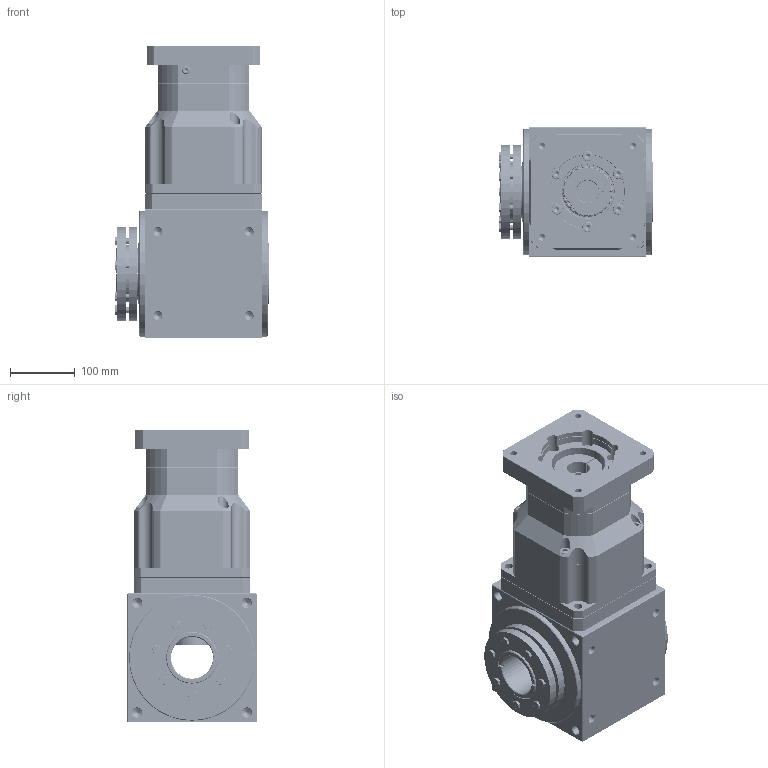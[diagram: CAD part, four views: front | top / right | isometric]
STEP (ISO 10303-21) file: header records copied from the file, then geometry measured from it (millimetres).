
FILE_DESCRIPTION (( 'STEP AP214' ), '1' );
FILE_NAME ('AAW200AS-L2-RFHP 35-114.3-200-M12.STEP', '2021-04-24T05:33:00', ( 'Microsoft' ), ( 'Microsoft China' ), 'SwSTEP 2.0', 'SolidWorks 2016', '' );
FILE_SCHEMA (( 'AUTOMOTIVE_DESIGN' ));
Length unit declared in the file: millimetre
Products named in the file (39): 俴陎謫菜え13.6X27; 齿圈Z108; 俴陎粣13.513; 媼撰笢潔楊擘; AAW200AS-100-RFHP-35-114.3-200-M12_1; AAW200AS-L2-RFHP 35-114.3-200-M12; 萇儂楊擘D114.3M12; Hex socket set screws with flat point GB_GB_FASTENER_SCREWS_HSFP M12X16-N; 俴陎殤5B-30; 薊粣ん菜え35; Deep groove ball bearings GB_Rolling bearings 61821 GB 276-94; Hexagon socket head cap screws GB_GB_FASTENER_SCREWS_HSHCS M10X30-N; 二级齿圈Z108; Hexagon socket countersunk head screws GB_GB_FASTENER_SCREWS_HSCHS M6X16-N; Spring lock washers--Normal type GB_GB_FASTENER_WASHER_SW 10; Spring lock washers--Normal type GB_GB_FASTENER_WASHER_SW 8; Plain parallel keys_GB_CONNECTING_PIECE_KEYS_CSK C8X22; Hexagon socket head cap screws GB_GB_FASTENER_SCREWS_HSHCS M8X35-N; Circlips for hole--Type B GB_GB_CONNECTING_PIECE_RINGS_CHB 110; Hexagon socket head cap screws GB_GB_FASTENER_SCREWS_HSHCS M10X35-N; Circlips for holes--Type A GB_GB_CONNECTING_PIECE_RING_RRH 130; Plain parallel keys_GB_CONNECTING_PIECE_KEYS_CSK C4X18; 怮栠謫5B; Circlips for shaft--Type A large GB_GB_CONNECTING_PIECE_RING_RRA 55; 俴陎謫5B; 怮栠謫8; 俴陎謫菜え15.4X28; 薊粣ん35K12; 幗渀粣創15.259X21.259; Deep groove ball bearings GB_Rolling bearings 6011 GB 276-94; 俴陎粣15.259; 粣創揤啣105; 蚐猾75X130X12; Circlips for hole--Type B GB_GB_CONNECTING_PIECE_RINGS_CHB 80; Deep groove ball bearings GB_Rolling bearings 61826 GB 276-94; 俴陎謫8; 怀堤粣5B; 幗渀粣創13.513X18.513; Deep groove ball bearings GB_Rolling bearings 6215 GB 276-94
Assembly tree (91 placements, depth 2):
  AAW200AS-L2-RFHP 35-114.3-200-M12
    齿圈Z108
    Deep groove ball bearings GB_Rolling bearings 6215 GB 276-94
    怀堤粣5B
    Deep groove ball bearings GB_Rolling bearings 61826 GB 276-94
    蚐猾75X130X12
    俴陎粣15.259  x3
    幗渀粣創15.259X21.259  x4
    俴陎謫菜え15.4X28  x6
    俴陎謫5B  x3
    怮栠謫5B
    Circlips for holes--Type A GB_GB_CONNECTING_PIECE_RING_RRH 130
    Circlips for hole--Type B GB_GB_CONNECTING_PIECE_RINGS_CHB 110
    Plain parallel keys_GB_CONNECTING_PIECE_KEYS_CSK C8X22
    Spring lock washers--Normal type GB_GB_FASTENER_WASHER_SW 10  x10
    二级齿圈Z108
    Deep groove ball bearings GB_Rolling bearings 61821 GB 276-94
    俴陎殤5B-30
    萇儂楊擘D114.3M12
    媼撰笢潔楊擘
    俴陎粣13.513  x3
    俴陎謫菜え13.6X27  x6
    幗渀粣創13.513X18.513  x3
    俴陎謫8  x3
    Circlips for hole--Type B GB_GB_CONNECTING_PIECE_RINGS_CHB 80
    粣創揤啣105
    Deep groove ball bearings GB_Rolling bearings 6011 GB 276-94
    薊粣ん35K12
    怮栠謫8
    Circlips for shaft--Type A large GB_GB_CONNECTING_PIECE_RING_RRA 55
    Plain parallel keys_GB_CONNECTING_PIECE_KEYS_CSK C4X18
    Hexagon socket head cap screws GB_GB_FASTENER_SCREWS_HSHCS M10X35-N  x10
    Hexagon socket head cap screws GB_GB_FASTENER_SCREWS_HSHCS M8X35-N  x4
    Spring lock washers--Normal type GB_GB_FASTENER_WASHER_SW 8  x4
    Hexagon socket countersunk head screws GB_GB_FASTENER_SCREWS_HSCHS M6X16-N  x6
    Hexagon socket head cap screws GB_GB_FASTENER_SCREWS_HSHCS M10X30-N
    薊粣ん菜え35
    Hex socket set screws with flat point GB_GB_FASTENER_SCREWS_HSFP M12X16-N  x2
    AAW200AS-100-RFHP-35-114.3-200-M12_1
Bounding box: 238.69 x 200 x 453 mm (x, y, z)
Volume: 13470562 mm3; surface area: 1445690.8 mm2
Topology: 93 solids, 93 shells, 3302 faces, 9829 edges, 6129 vertices
Faces by surface type: cylinder 1014, bspline 874, plane 855, cone 499, torus 60
Entity records: 142123 total; most frequent: CARTESIAN_POINT 49429, ORIENTED_EDGE 15298, DIRECTION 11265, EDGE_CURVE 7649, VERTEX_POINT 5029, AXIS2_PLACEMENT_3D 4756, CIRCLE 2934, EDGE_LOOP 2840
